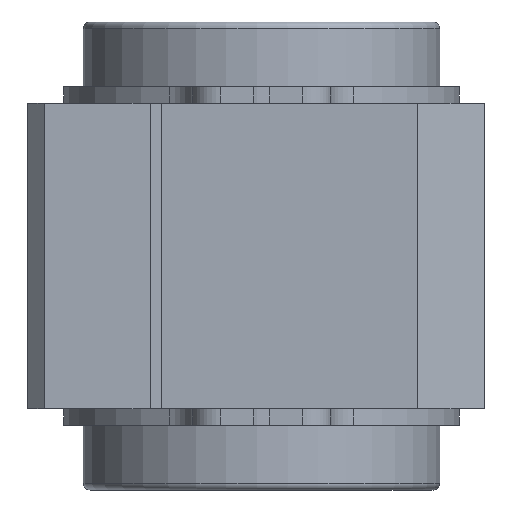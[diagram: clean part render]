
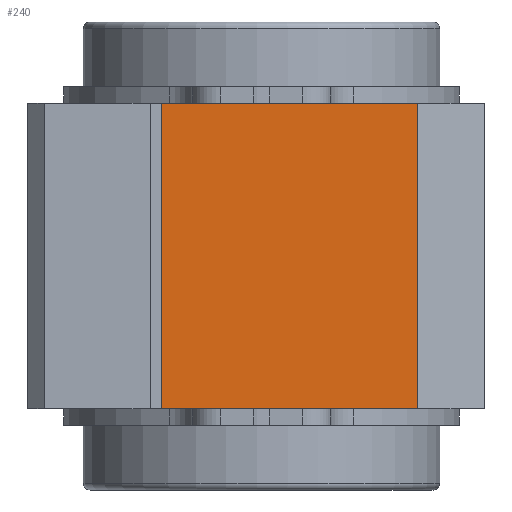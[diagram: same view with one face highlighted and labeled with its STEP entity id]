
A CAD part, left-side view. The second image highlights one B-rep face of the part: STEP entity #240.
In plain terms, the highlighted planar face has unit normal (-1, 0, 0).
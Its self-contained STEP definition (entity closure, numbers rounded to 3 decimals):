
#240=ADVANCED_FACE('',(#343),#344,.F.);
#343=FACE_OUTER_BOUND('',#522,.T.);
#344=PLANE('',#523);
#522=EDGE_LOOP('',(#827,#828,#829,#830));
#523=AXIS2_PLACEMENT_3D('',#831,#832,#833);
#827=ORIENTED_EDGE('',*,*,#1219,.T.);
#828=ORIENTED_EDGE('',*,*,#1241,.F.);
#829=ORIENTED_EDGE('',*,*,#1188,.F.);
#830=ORIENTED_EDGE('',*,*,#1242,.T.);
#831=CARTESIAN_POINT('',(-26.0,9.0,13.7));
#832=DIRECTION('',(1.0,0.0,0.0));
#833=DIRECTION('',(0.0,1.0,0.0));
#1188=EDGE_CURVE('',#1355,#1357,#1358,.T.);
#1219=EDGE_CURVE('',#1418,#1416,#1419,.T.);
#1241=EDGE_CURVE('',#1357,#1416,#1449,.T.);
#1242=EDGE_CURVE('',#1355,#1418,#1450,.T.);
#1355=VERTEX_POINT('',#1636);
#1357=VERTEX_POINT('',#1639);
#1358=LINE('',#1640,#1641);
#1416=VERTEX_POINT('',#1727);
#1418=VERTEX_POINT('',#1730);
#1419=LINE('',#1731,#1732);
#1449=LINE('',#1778,#1779);
#1450=LINE('',#1780,#1781);
#1636=CARTESIAN_POINT('',(-26.0,9.0,13.7));
#1639=CARTESIAN_POINT('',(-26.0,-14.0,13.7));
#1640=CARTESIAN_POINT('',(-26.0,9.0,13.7));
#1641=VECTOR('',#1990,1.0);
#1727=CARTESIAN_POINT('',(-26.0,-14.0,-13.7));
#1730=CARTESIAN_POINT('',(-26.0,9.0,-13.7));
#1731=CARTESIAN_POINT('',(-26.0,9.0,-13.7));
#1732=VECTOR('',#2023,1.0);
#1778=CARTESIAN_POINT('',(-26.0,-14.0,13.7));
#1779=VECTOR('',#2055,1.0);
#1780=CARTESIAN_POINT('',(-26.0,9.0,13.7));
#1781=VECTOR('',#2056,1.0);
#1990=DIRECTION('',(0.0,-1.0,0.0));
#2023=DIRECTION('',(0.0,-1.0,0.0));
#2055=DIRECTION('',(0.0,0.0,-1.0));
#2056=DIRECTION('',(0.0,0.0,-1.0));
